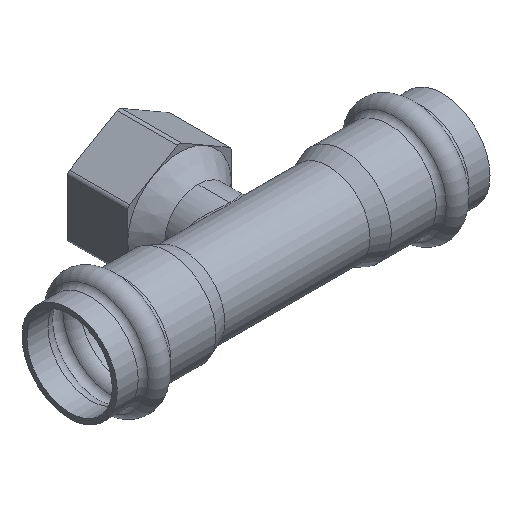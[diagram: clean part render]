
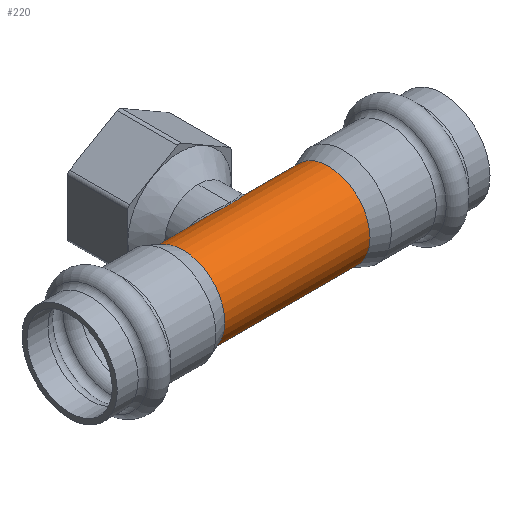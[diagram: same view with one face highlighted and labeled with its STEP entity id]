
A CAD part, isometric view. The second image highlights one B-rep face of the part: STEP entity #220.
In plain terms, the highlighted cylindrical face has radius 10 mm (diameter 20 mm), a full revolution.
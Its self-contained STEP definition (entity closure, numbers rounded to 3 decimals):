
#159=B_SPLINE_CURVE_WITH_KNOTS('',3,(#1156,#1157,#1158,#1159,#1160,#1161,
#1162,#1163,#1164,#1165,#1166,#1167,#1168,#1169,#1170,#1171,#1172,#1173,
#1174,#1175,#1176,#1177,#1178,#1179,#1180,#1181,#1182,#1183,#1184,#1185,
#1186,#1187,#1188,#1189),.UNSPECIFIED.,.T.,.F.,(2,2,2,2,2,2,2,2,2,2,2,2,
2,2,2,2,2,2,2),(-0.063,0.,0.063,0.125,0.188,0.25,0.313,0.375,0.438,
0.5,0.563,0.625,0.688,0.75,0.813,0.875,0.938,1.,1.063),.UNSPECIFIED.);
#187=CYLINDRICAL_SURFACE('',#793,10.);
#220=ADVANCED_FACE('',(#301,#302,#303),#187,.T.);
#301=FACE_BOUND('',#377,.T.);
#302=FACE_BOUND('',#378,.T.);
#303=FACE_BOUND('',#379,.T.);
#377=EDGE_LOOP('',(#465));
#378=EDGE_LOOP('',(#466));
#379=EDGE_LOOP('',(#467));
#465=ORIENTED_EDGE('',*,*,#652,.T.);
#466=ORIENTED_EDGE('',*,*,#653,.F.);
#467=ORIENTED_EDGE('',*,*,#651,.T.);
#590=VERTEX_POINT('',#1154);
#591=VERTEX_POINT('',#1190);
#592=VERTEX_POINT('',#1192);
#651=EDGE_CURVE('',#590,#590,#723,.T.);
#652=EDGE_CURVE('',#591,#591,#159,.T.);
#653=EDGE_CURVE('',#592,#592,#724,.T.);
#723=CIRCLE('',#790,10.);
#724=CIRCLE('',#792,10.);
#790=AXIS2_PLACEMENT_3D('',#1153,#927,#928);
#792=AXIS2_PLACEMENT_3D('',#1191,#931,#932);
#793=AXIS2_PLACEMENT_3D('',#1193,#933,#934);
#927=DIRECTION('',(-1.,0.,0.));
#928=DIRECTION('',(0.,-1.,0.));
#931=DIRECTION('',(-1.,0.,0.));
#932=DIRECTION('',(0.,-1.,0.));
#933=DIRECTION('',(-1.,0.,0.));
#934=DIRECTION('',(0.,-1.,0.));
#1153=CARTESIAN_POINT('',(17.56,0.,0.));
#1154=CARTESIAN_POINT('',(17.56,-10.,0.));
#1156=CARTESIAN_POINT('',(1.201,5.75,8.182));
#1157=CARTESIAN_POINT('',(-1.201,5.75,8.182));
#1158=CARTESIAN_POINT('',(-2.356,6.079,7.962));
#1159=CARTESIAN_POINT('',(-4.437,6.974,7.191));
#1160=CARTESIAN_POINT('',(-5.349,7.511,6.659));
#1161=CARTESIAN_POINT('',(-6.984,8.549,5.26));
#1162=CARTESIAN_POINT('',(-7.671,9.034,4.423));
#1163=CARTESIAN_POINT('',(-8.695,9.77,2.39));
#1164=CARTESIAN_POINT('',(-8.994,9.996,1.216));
#1165=CARTESIAN_POINT('',(-9.005,10.004,-1.147));
#1166=CARTESIAN_POINT('',(-8.712,9.783,-2.337));
#1167=CARTESIAN_POINT('',(-7.704,9.057,-4.375));
#1168=CARTESIAN_POINT('',(-7.002,8.562,-5.238));
#1169=CARTESIAN_POINT('',(-5.39,7.536,-6.63));
#1170=CARTESIAN_POINT('',(-4.458,6.986,-7.179));
#1171=CARTESIAN_POINT('',(-2.4,6.094,-7.95));
#1172=CARTESIAN_POINT('',(-1.231,5.756,-8.177));
#1173=CARTESIAN_POINT('',(1.158,5.743,-8.186));
#1174=CARTESIAN_POINT('',(2.323,6.068,-7.97));
#1175=CARTESIAN_POINT('',(4.404,6.956,-7.208));
#1176=CARTESIAN_POINT('',(5.325,7.497,-6.674));
#1177=CARTESIAN_POINT('',(6.963,8.535,-5.283));
#1178=CARTESIAN_POINT('',(7.655,9.022,-4.446));
#1179=CARTESIAN_POINT('',(8.685,9.763,-2.418));
#1180=CARTESIAN_POINT('',(8.992,9.994,-1.235));
#1181=CARTESIAN_POINT('',(9.008,10.006,1.135));
#1182=CARTESIAN_POINT('',(8.718,9.788,2.321));
#1183=CARTESIAN_POINT('',(7.706,9.058,4.374));
#1184=CARTESIAN_POINT('',(7.005,8.563,5.237));
#1185=CARTESIAN_POINT('',(5.38,7.53,6.637));
#1186=CARTESIAN_POINT('',(4.446,6.979,7.186));
#1187=CARTESIAN_POINT('',(2.379,6.087,7.956));
#1188=CARTESIAN_POINT('',(1.201,5.75,8.182));
#1189=CARTESIAN_POINT('',(-1.201,5.75,8.182));
#1190=CARTESIAN_POINT('',(0.,5.75,8.182));
#1191=CARTESIAN_POINT('',(-17.512,0.,0.));
#1192=CARTESIAN_POINT('',(-17.512,-10.,0.));
#1193=CARTESIAN_POINT('',(-8.,0.,0.));
